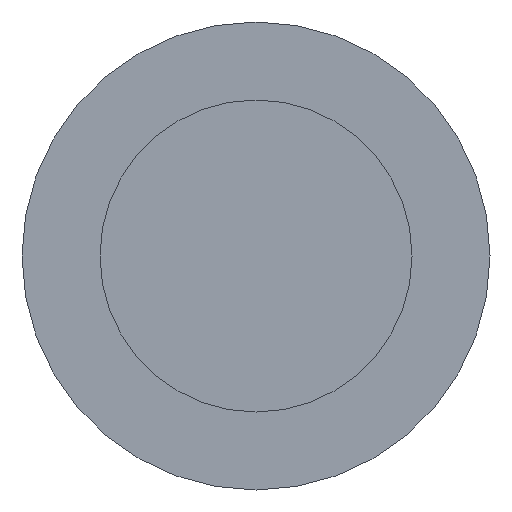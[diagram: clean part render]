
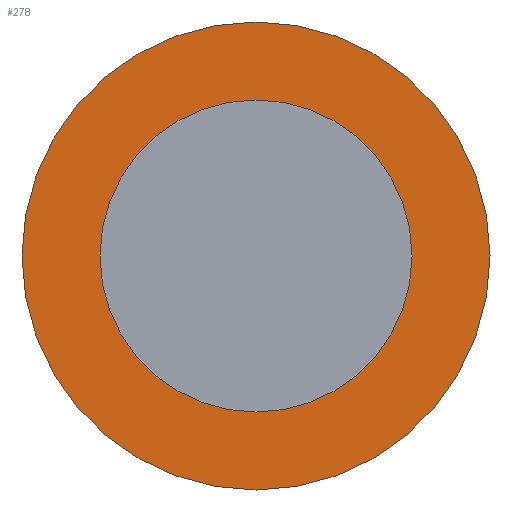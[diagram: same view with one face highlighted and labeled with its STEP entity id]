
A CAD part, front view. The second image highlights one B-rep face of the part: STEP entity #278.
In plain terms, the highlighted planar face has unit normal (0, -1, 0).
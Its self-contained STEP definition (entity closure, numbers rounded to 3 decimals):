
#13 = EDGE_LOOP ( 'NONE', ( #480, #49 ) ) ;
#20 = EDGE_LOOP ( 'NONE', ( #394, #193 ) ) ;
#33 = DIRECTION ( 'NONE',  ( 0., 0., 1. ) ) ;
#36 = FACE_OUTER_BOUND ( 'NONE', #20, .T. ) ;
#37 = AXIS2_PLACEMENT_3D ( 'NONE', #389, #522, #525 ) ;
#49 = ORIENTED_EDGE ( 'NONE', *, *, #295, .T. ) ;
#75 = FACE_BOUND ( 'NONE', #13, .T. ) ;
#116 = DIRECTION ( 'NONE',  ( 0., 0., 1. ) ) ;
#123 = CARTESIAN_POINT ( 'NONE',  ( 0., 0., 7.5 ) ) ;
#142 = VERTEX_POINT ( 'NONE', #224 ) ;
#149 = AXIS2_PLACEMENT_3D ( 'NONE', #532, #203, #116 ) ;
#154 = PLANE ( 'NONE',  #309 ) ;
#161 = DIRECTION ( 'NONE',  ( 0., 0., 1. ) ) ;
#163 = CARTESIAN_POINT ( 'NONE',  ( 0., 0., 0. ) ) ;
#176 = VERTEX_POINT ( 'NONE', #259 ) ;
#193 = ORIENTED_EDGE ( 'NONE', *, *, #530, .F. ) ;
#203 = DIRECTION ( 'NONE',  ( 0., 1., 0. ) ) ;
#211 = DIRECTION ( 'NONE',  ( 0., 1., 0. ) ) ;
#224 = CARTESIAN_POINT ( 'NONE',  ( 0., 0., 5. ) ) ;
#233 = CIRCLE ( 'NONE', #323, 5. ) ;
#253 = EDGE_CURVE ( 'NONE', #383, #384, #453, .T. ) ;
#259 = CARTESIAN_POINT ( 'NONE',  ( 0., 0., -5. ) ) ;
#278 = ADVANCED_FACE ( 'NONE', ( #36, #75 ), #154, .F. ) ;
#295 = EDGE_CURVE ( 'NONE', #142, #176, #379, .T. ) ;
#309 = AXIS2_PLACEMENT_3D ( 'NONE', #355, #535, #361 ) ;
#323 = AXIS2_PLACEMENT_3D ( 'NONE', #163, #211, #161 ) ;
#341 = CIRCLE ( 'NONE', #37, 7.5 ) ;
#355 = CARTESIAN_POINT ( 'NONE',  ( 0., 0., 0. ) ) ;
#361 = DIRECTION ( 'NONE',  ( 0., 0., 1. ) ) ;
#368 = CARTESIAN_POINT ( 'NONE',  ( 0., 0., -7.5 ) ) ;
#379 = CIRCLE ( 'NONE', #416, 5. ) ;
#383 = VERTEX_POINT ( 'NONE', #368 ) ;
#384 = VERTEX_POINT ( 'NONE', #123 ) ;
#389 = CARTESIAN_POINT ( 'NONE',  ( 0., 0., 0. ) ) ;
#394 = ORIENTED_EDGE ( 'NONE', *, *, #253, .F. ) ;
#405 = CARTESIAN_POINT ( 'NONE',  ( 0., 0., 0. ) ) ;
#406 = EDGE_CURVE ( 'NONE', #176, #142, #233, .T. ) ;
#416 = AXIS2_PLACEMENT_3D ( 'NONE', #405, #490, #33 ) ;
#453 = CIRCLE ( 'NONE', #149, 7.5 ) ;
#480 = ORIENTED_EDGE ( 'NONE', *, *, #406, .T. ) ;
#490 = DIRECTION ( 'NONE',  ( 0., 1., 0. ) ) ;
#522 = DIRECTION ( 'NONE',  ( 0., 1., 0. ) ) ;
#525 = DIRECTION ( 'NONE',  ( 0., 0., 1. ) ) ;
#530 = EDGE_CURVE ( 'NONE', #384, #383, #341, .T. ) ;
#532 = CARTESIAN_POINT ( 'NONE',  ( 0., 0., 0. ) ) ;
#535 = DIRECTION ( 'NONE',  ( 0., 1., 0. ) ) ;
